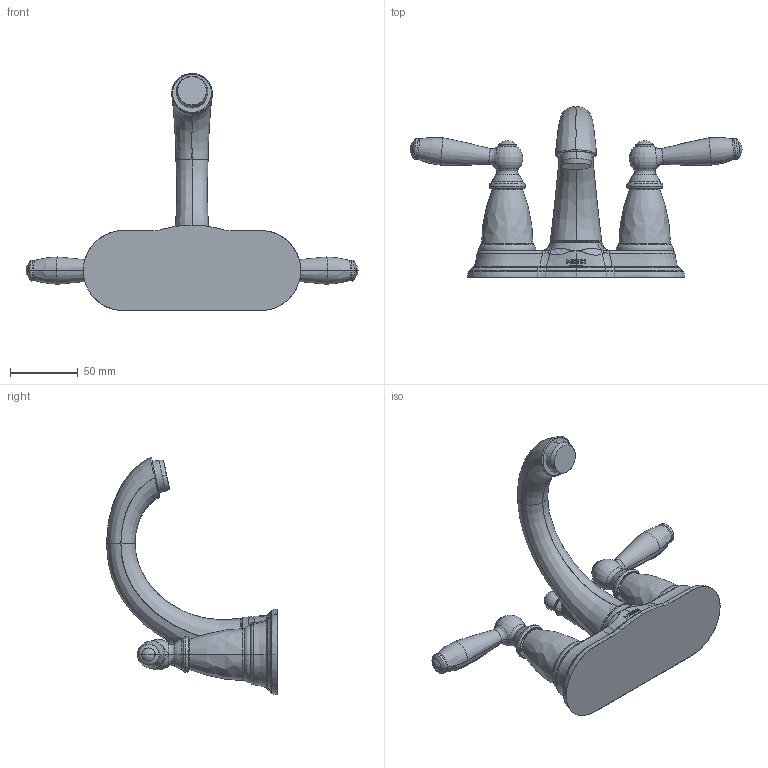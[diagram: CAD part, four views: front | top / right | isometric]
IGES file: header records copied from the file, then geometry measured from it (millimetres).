
Start section:  PTC IGES file: sku_6610.igs
Global section: file name: sku_6610.igs; native system: Pro/ENGINEER by Parametric Technology Corporation; preprocessor: 2006460; author: 9dutterb; organization: Unknown; date: 20071206.153324; units: inch
Bounding box: 245.56 x 126.19 x 175.48 mm (x, y, z)
Surface area: 62958.2 mm2 (no closed solid volume)
Topology: 0 solids, 0 shells, 218 faces, 944 edges, 934 vertices
Faces by surface type: revolution 113, bspline 105
